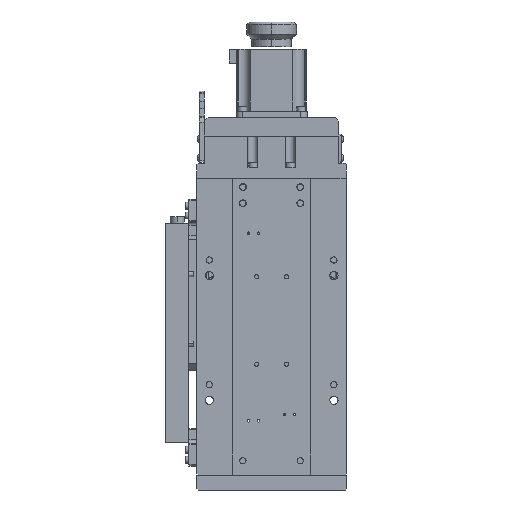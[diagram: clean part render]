
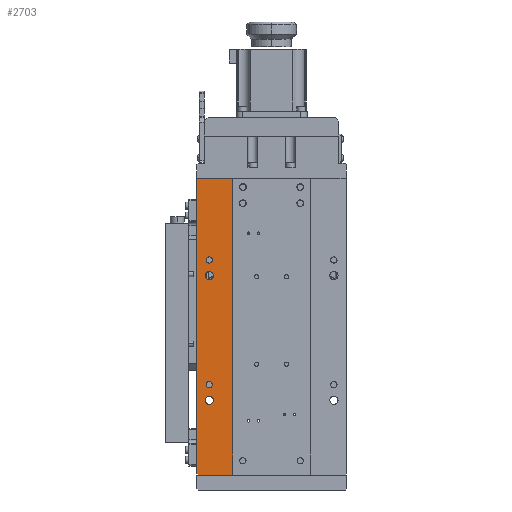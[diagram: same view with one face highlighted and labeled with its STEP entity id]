
A CAD part, front view. The second image highlights one B-rep face of the part: STEP entity #2703.
In plain terms, the highlighted planar face has unit normal (0, -1, 0).
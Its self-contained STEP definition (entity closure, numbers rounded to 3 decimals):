
#131 = ORIENTED_EDGE ( 'NONE', *, *, #35778, .T. ) ;
#885 = VECTOR ( 'NONE', #22322, 1000. ) ;
#1025 = FACE_OUTER_BOUND ( 'NONE', #45825, .T. ) ;
#1609 = VERTEX_POINT ( 'NONE', #51408 ) ;
#1735 = VERTEX_POINT ( 'NONE', #20292 ) ;
#2043 = CARTESIAN_POINT ( 'NONE',  ( -60., 0., 351.006 ) ) ;
#2060 = DIRECTION ( 'NONE',  ( 0., 1., 0. ) ) ;
#2454 = FACE_BOUND ( 'NONE', #3057, .T. ) ;
#2703 = ADVANCED_FACE ( 'NONE', ( #49345, #57152, #2454, #37232, #1025 ), #56058, .F. ) ;
#2912 = DIRECTION ( 'NONE',  ( 0., 0., 1. ) ) ;
#3057 = EDGE_LOOP ( 'NONE', ( #39662, #131 ) ) ;
#3318 = EDGE_CURVE ( 'NONE', #57251, #4559, #15197, .T. ) ;
#3939 = EDGE_CURVE ( 'NONE', #1735, #23535, #32789, .T. ) ;
#3967 = LINE ( 'NONE', #21342, #30951 ) ;
#4153 = CARTESIAN_POINT ( 'NONE',  ( -50., 0., 273.006 ) ) ;
#4215 = CARTESIAN_POINT ( 'NONE',  ( -50., 0., 283.006 ) ) ;
#4559 = VERTEX_POINT ( 'NONE', #18239 ) ;
#5234 = EDGE_CURVE ( 'NONE', #57301, #56843, #32988, .T. ) ;
#6010 = CARTESIAN_POINT ( 'NONE',  ( -50., 0., 285.506 ) ) ;
#6019 = CARTESIAN_POINT ( 'NONE',  ( -60., 0., 351.006 ) ) ;
#6766 = ORIENTED_EDGE ( 'NONE', *, *, #55403, .F. ) ;
#6782 = CARTESIAN_POINT ( 'NONE',  ( -50., 0., 273.006 ) ) ;
#6905 = CARTESIAN_POINT ( 'NONE',  ( -50., 0., 269.706 ) ) ;
#7311 = CARTESIAN_POINT ( 'NONE',  ( -50., 0., 173.006 ) ) ;
#7476 = CARTESIAN_POINT ( 'NONE',  ( -50., 0., 173.006 ) ) ;
#7669 = VERTEX_POINT ( 'NONE', #53197 ) ;
#10957 = LINE ( 'NONE', #23691, #49284 ) ;
#11095 = AXIS2_PLACEMENT_3D ( 'NONE', #33327, #51802, #37504 ) ;
#11859 = ORIENTED_EDGE ( 'NONE', *, *, #57894, .T. ) ;
#12092 = CIRCLE ( 'NONE', #40259, 2.5 ) ;
#14435 = CARTESIAN_POINT ( 'NONE',  ( -60., 0., 114.006 ) ) ;
#15197 = CIRCLE ( 'NONE', #42839, 3.3 ) ;
#16487 = LINE ( 'NONE', #56228, #46272 ) ;
#18239 = CARTESIAN_POINT ( 'NONE',  ( -50., 0., 276.306 ) ) ;
#19548 = DIRECTION ( 'NONE',  ( 0., 0., -1. ) ) ;
#20192 = ORIENTED_EDGE ( 'NONE', *, *, #29239, .F. ) ;
#20292 = CARTESIAN_POINT ( 'NONE',  ( -60., 0., 114.006 ) ) ;
#20321 = DIRECTION ( 'NONE',  ( 0., 1., 0. ) ) ;
#21342 = CARTESIAN_POINT ( 'NONE',  ( -60., 0., 351.006 ) ) ;
#21922 = AXIS2_PLACEMENT_3D ( 'NONE', #6019, #2060, #51275 ) ;
#22322 = DIRECTION ( 'NONE',  ( -0.707, 0., -0.707 ) ) ;
#23535 = VERTEX_POINT ( 'NONE', #53838 ) ;
#23691 = CARTESIAN_POINT ( 'NONE',  ( -31., 0., 351.006 ) ) ;
#24349 = EDGE_CURVE ( 'NONE', #7669, #1735, #37523, .T. ) ;
#24708 = CIRCLE ( 'NONE', #55870, 3.3 ) ;
#24864 = EDGE_LOOP ( 'NONE', ( #31375, #43466 ) ) ;
#25193 = CARTESIAN_POINT ( 'NONE',  ( -50., 0., 288.006 ) ) ;
#25380 = CARTESIAN_POINT ( 'NONE',  ( -50., 0., 183.006 ) ) ;
#25615 = CIRCLE ( 'NONE', #37324, 2.5 ) ;
#26728 = EDGE_CURVE ( 'NONE', #44869, #57380, #10957, .T. ) ;
#27640 = VECTOR ( 'NONE', #47678, 1000. ) ;
#27703 = ORIENTED_EDGE ( 'NONE', *, *, #28713, .F. ) ;
#28713 = EDGE_CURVE ( 'NONE', #53981, #55597, #30653, .T. ) ;
#29157 = DIRECTION ( 'NONE',  ( 0., 0., 1. ) ) ;
#29239 = EDGE_CURVE ( 'NONE', #55597, #53981, #25615, .T. ) ;
#30330 = ORIENTED_EDGE ( 'NONE', *, *, #3939, .T. ) ;
#30653 = CIRCLE ( 'NONE', #11095, 2.5 ) ;
#30951 = VECTOR ( 'NONE', #44518, 1000. ) ;
#31084 = CARTESIAN_POINT ( 'NONE',  ( -31., 0., 113.006 ) ) ;
#31375 = ORIENTED_EDGE ( 'NONE', *, *, #43474, .T. ) ;
#32579 = DIRECTION ( 'NONE',  ( 1., 0., 0. ) ) ;
#32789 = LINE ( 'NONE', #14435, #49863 ) ;
#32988 = CIRCLE ( 'NONE', #39867, 2.5 ) ;
#33327 = CARTESIAN_POINT ( 'NONE',  ( -50., 0., 285.506 ) ) ;
#35513 = CARTESIAN_POINT ( 'NONE',  ( -50., 0., 188.006 ) ) ;
#35778 = EDGE_CURVE ( 'NONE', #1609, #38233, #24708, .T. ) ;
#35996 = CARTESIAN_POINT ( 'NONE',  ( -50., 0., 185.506 ) ) ;
#36067 = EDGE_LOOP ( 'NONE', ( #46670, #50062 ) ) ;
#36102 = EDGE_CURVE ( 'NONE', #56843, #57301, #12092, .T. ) ;
#36641 = CARTESIAN_POINT ( 'NONE',  ( -59., 0., 351.006 ) ) ;
#37232 = FACE_BOUND ( 'NONE', #24864, .T. ) ;
#37324 = AXIS2_PLACEMENT_3D ( 'NONE', #6010, #51671, #19548 ) ;
#37504 = DIRECTION ( 'NONE',  ( 0., 0., -1. ) ) ;
#37523 = LINE ( 'NONE', #2043, #27640 ) ;
#37829 = CIRCLE ( 'NONE', #49258, 3.3 ) ;
#38233 = VERTEX_POINT ( 'NONE', #51202 ) ;
#38980 = AXIS2_PLACEMENT_3D ( 'NONE', #7476, #47991, #2912 ) ;
#39152 = VERTEX_POINT ( 'NONE', #36641 ) ;
#39662 = ORIENTED_EDGE ( 'NONE', *, *, #43778, .T. ) ;
#39867 = AXIS2_PLACEMENT_3D ( 'NONE', #35996, #44934, #45140 ) ;
#40029 = CARTESIAN_POINT ( 'NONE',  ( -50., 0., 185.506 ) ) ;
#40259 = AXIS2_PLACEMENT_3D ( 'NONE', #40029, #45227, #44622 ) ;
#42090 = ORIENTED_EDGE ( 'NONE', *, *, #44652, .T. ) ;
#42839 = AXIS2_PLACEMENT_3D ( 'NONE', #4153, #58766, #53804 ) ;
#42886 = DIRECTION ( 'NONE',  ( 0., 0., 1. ) ) ;
#43466 = ORIENTED_EDGE ( 'NONE', *, *, #3318, .T. ) ;
#43474 = EDGE_CURVE ( 'NONE', #4559, #57251, #37829, .T. ) ;
#43778 = EDGE_CURVE ( 'NONE', #38233, #1609, #49874, .T. ) ;
#44474 = CARTESIAN_POINT ( 'NONE',  ( -31., 0., 351.006 ) ) ;
#44518 = DIRECTION ( 'NONE',  ( 1., 0., 0. ) ) ;
#44622 = DIRECTION ( 'NONE',  ( 0., 0., -1. ) ) ;
#44652 = EDGE_CURVE ( 'NONE', #23535, #57380, #16487, .T. ) ;
#44869 = VERTEX_POINT ( 'NONE', #44474 ) ;
#44934 = DIRECTION ( 'NONE',  ( 0., -1., 0. ) ) ;
#45140 = DIRECTION ( 'NONE',  ( 0., 0., -1. ) ) ;
#45227 = DIRECTION ( 'NONE',  ( 0., -1., 0. ) ) ;
#45469 = ORIENTED_EDGE ( 'NONE', *, *, #26728, .F. ) ;
#45825 = EDGE_LOOP ( 'NONE', ( #6766, #11859, #51386, #30330, #42090, #45469 ) ) ;
#46272 = VECTOR ( 'NONE', #32579, 1000. ) ;
#46670 = ORIENTED_EDGE ( 'NONE', *, *, #5234, .F. ) ;
#47678 = DIRECTION ( 'NONE',  ( 0., 0., -1. ) ) ;
#47991 = DIRECTION ( 'NONE',  ( 0., 1., 0. ) ) ;
#49258 = AXIS2_PLACEMENT_3D ( 'NONE', #6782, #20321, #42886 ) ;
#49284 = VECTOR ( 'NONE', #51262, 1000. ) ;
#49288 = CARTESIAN_POINT ( 'NONE',  ( -59., 0., 351.006 ) ) ;
#49345 = FACE_BOUND ( 'NONE', #57079, .T. ) ;
#49863 = VECTOR ( 'NONE', #50725, 1000. ) ;
#49874 = CIRCLE ( 'NONE', #38980, 3.3 ) ;
#50062 = ORIENTED_EDGE ( 'NONE', *, *, #36102, .F. ) ;
#50624 = LINE ( 'NONE', #49288, #885 ) ;
#50725 = DIRECTION ( 'NONE',  ( 0.707, 0., -0.707 ) ) ;
#51202 = CARTESIAN_POINT ( 'NONE',  ( -50., 0., 176.306 ) ) ;
#51262 = DIRECTION ( 'NONE',  ( 0., 0., -1. ) ) ;
#51275 = DIRECTION ( 'NONE',  ( -1., 0., 0. ) ) ;
#51386 = ORIENTED_EDGE ( 'NONE', *, *, #24349, .T. ) ;
#51408 = CARTESIAN_POINT ( 'NONE',  ( -50., 0., 169.706 ) ) ;
#51671 = DIRECTION ( 'NONE',  ( 0., -1., 0. ) ) ;
#51802 = DIRECTION ( 'NONE',  ( 0., -1., 0. ) ) ;
#53197 = CARTESIAN_POINT ( 'NONE',  ( -60., 0., 350.006 ) ) ;
#53804 = DIRECTION ( 'NONE',  ( 0., 0., 1. ) ) ;
#53838 = CARTESIAN_POINT ( 'NONE',  ( -59., 0., 113.006 ) ) ;
#53981 = VERTEX_POINT ( 'NONE', #25193 ) ;
#55403 = EDGE_CURVE ( 'NONE', #39152, #44869, #3967, .T. ) ;
#55597 = VERTEX_POINT ( 'NONE', #4215 ) ;
#55870 = AXIS2_PLACEMENT_3D ( 'NONE', #7311, #56777, #29157 ) ;
#56058 = PLANE ( 'NONE',  #21922 ) ;
#56228 = CARTESIAN_POINT ( 'NONE',  ( -60., 0., 113.006 ) ) ;
#56777 = DIRECTION ( 'NONE',  ( 0., 1., 0. ) ) ;
#56843 = VERTEX_POINT ( 'NONE', #35513 ) ;
#57079 = EDGE_LOOP ( 'NONE', ( #20192, #27703 ) ) ;
#57152 = FACE_BOUND ( 'NONE', #36067, .T. ) ;
#57251 = VERTEX_POINT ( 'NONE', #6905 ) ;
#57301 = VERTEX_POINT ( 'NONE', #25380 ) ;
#57380 = VERTEX_POINT ( 'NONE', #31084 ) ;
#57894 = EDGE_CURVE ( 'NONE', #39152, #7669, #50624, .T. ) ;
#58766 = DIRECTION ( 'NONE',  ( 0., 1., 0. ) ) ;
